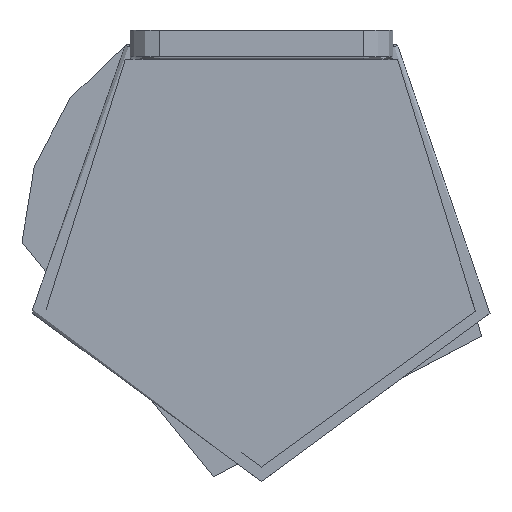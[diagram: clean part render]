
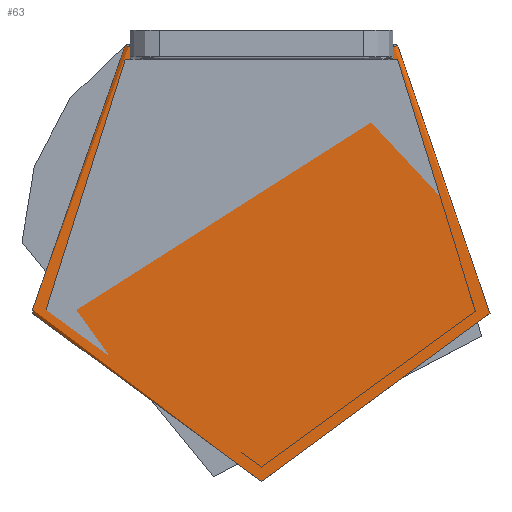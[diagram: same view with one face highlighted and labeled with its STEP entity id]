
A CAD part, top view. The second image highlights one B-rep face of the part: STEP entity #63.
In plain terms, the highlighted free-form (B-spline) face has degree [2, 2] with [9, 3] control points.
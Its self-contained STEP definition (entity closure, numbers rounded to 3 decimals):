
#63=ADVANCED_FACE('',(#117),#900,.T.);
#117=FACE_OUTER_BOUND('',#177,.T.);
#177=EDGE_LOOP('',(#357,#358,#359,#360));
#357=ORIENTED_EDGE('',*,*,#564,.T.);
#358=ORIENTED_EDGE('',*,*,#535,.F.);
#359=ORIENTED_EDGE('',*,*,#552,.T.);
#360=ORIENTED_EDGE('',*,*,#543,.T.);
#535=EDGE_CURVE('',#859,#866,#617,.T.);
#543=EDGE_CURVE('',#858,#865,#716,.T.);
#552=EDGE_CURVE('',#859,#858,#620,.T.);
#564=EDGE_CURVE('',#865,#866,#626,.T.);
#617=(
BOUNDED_CURVE()
B_SPLINE_CURVE(2,(#1891,#1892,#1893,#1894,#1895,#1896,#1897,#1898,#1899),
 .UNSPECIFIED.,.F.,.F.)
B_SPLINE_CURVE_WITH_KNOTS((3,2,2,2,3),(-0.511,102.396,
206.263,310.131,413.038),.UNSPECIFIED.)
CURVE()
GEOMETRIC_REPRESENTATION_ITEM()
RATIONAL_B_SPLINE_CURVE((1.,0.806,1.,0.803,1.,0.803,
1.,0.806,1.))
REPRESENTATION_ITEM('')
);
#620=(
BOUNDED_CURVE()
B_SPLINE_CURVE(3,(#1966,#1967,#1968,#1969,#1970,#1971,#1972),
 .UNSPECIFIED.,.F.,.F.)
B_SPLINE_CURVE_WITH_KNOTS((4,1,1,1,4),(0.674,1.044,
1.358,1.599,1.783),.UNSPECIFIED.)
CURVE()
GEOMETRIC_REPRESENTATION_ITEM()
RATIONAL_B_SPLINE_CURVE((1.,1.,1.,1.,1.,1.,
1.))
REPRESENTATION_ITEM('')
);
#626=(
BOUNDED_CURVE()
B_SPLINE_CURVE(3,(#2070,#2071,#2072,#2073,#2074,#2075,#2076,#2077),
 .UNSPECIFIED.,.F.,.F.)
B_SPLINE_CURVE_WITH_KNOTS((4,1,1,1,1,4),(0.,0.088,
0.185,0.425,0.74,1.109),
 .UNSPECIFIED.)
CURVE()
GEOMETRIC_REPRESENTATION_ITEM()
RATIONAL_B_SPLINE_CURVE((1.,1.,1.,1.,1.,1.,1.,1.))
REPRESENTATION_ITEM('')
);
#716=TRIMMED_CURVE($,#776,(#1917),(#1918),.T.,.CARTESIAN.);
#776=CIRCLE('',#1096,82.258);
#858=VERTEX_POINT('',#1870);
#859=VERTEX_POINT('',#1871);
#865=VERTEX_POINT('',#1877);
#866=VERTEX_POINT('',#1878);
#900=(
BOUNDED_SURFACE()
B_SPLINE_SURFACE(2,2,((#1634,#1635,#1636),(#1637,#1638,#1639),(#1640,#1641,
#1642),(#1643,#1644,#1645),(#1646,#1647,#1648),(#1649,#1650,#1651),(#1652,
#1653,#1654),(#1655,#1656,#1657),(#1658,#1659,#1660)),.UNSPECIFIED.,.F.,
 .F.,.F.)
B_SPLINE_SURFACE_WITH_KNOTS((3,2,2,2,3),(3,3),(-2.471,101.896,
206.263,310.631,414.998),(0.,1.571),
 .UNSPECIFIED.)
GEOMETRIC_REPRESENTATION_ITEM()
RATIONAL_B_SPLINE_SURFACE(((1.,0.707,1.),(0.801,
0.566,0.801),(1.,0.707,1.),(0.801,
0.566,0.801),(1.,0.707,1.),(0.801,
0.566,0.801),(1.,0.707,1.),(0.801,
0.566,0.801),(1.,0.707,1.)))
REPRESENTATION_ITEM('')
SURFACE()
);
#1096=AXIS2_PLACEMENT_3D($,#1916,#1233,#1234);
#1233=DIRECTION('',(0.,0.,1.));
#1234=DIRECTION('',(-0.569,0.822,0.));
#1634=CARTESIAN_POINT('',(1849.419,-207.201,-206.397));
#1635=CARTESIAN_POINT('',(1849.419,-207.201,-205.397));
#1636=CARTESIAN_POINT('',(1849.961,-208.042,-205.397));
#1637=CARTESIAN_POINT('',(1797.712,-240.547,-206.397));
#1638=CARTESIAN_POINT('',(1797.712,-240.547,-205.397));
#1639=CARTESIAN_POINT('',(1798.882,-240.982,-205.397));
#1640=CARTESIAN_POINT('',(1815.092,-299.568,-206.397));
#1641=CARTESIAN_POINT('',(1815.092,-299.568,-205.397));
#1642=CARTESIAN_POINT('',(1816.052,-299.285,-205.397));
#1643=CARTESIAN_POINT('',(1832.473,-358.589,-206.397));
#1644=CARTESIAN_POINT('',(1832.473,-358.589,-205.397));
#1645=CARTESIAN_POINT('',(1833.221,-357.589,-205.397));
#1646=CARTESIAN_POINT('',(1894.,-358.589,-206.397));
#1647=CARTESIAN_POINT('',(1894.,-358.589,-205.397));
#1648=CARTESIAN_POINT('',(1894.,-357.589,-205.397));
#1649=CARTESIAN_POINT('',(1955.527,-358.589,-206.397));
#1650=CARTESIAN_POINT('',(1955.527,-358.589,-205.397));
#1651=CARTESIAN_POINT('',(1954.779,-357.589,-205.397));
#1652=CARTESIAN_POINT('',(1972.908,-299.568,-206.397));
#1653=CARTESIAN_POINT('',(1972.908,-299.568,-205.397));
#1654=CARTESIAN_POINT('',(1971.948,-299.285,-205.397));
#1655=CARTESIAN_POINT('',(1990.288,-240.547,-206.397));
#1656=CARTESIAN_POINT('',(1990.288,-240.547,-205.397));
#1657=CARTESIAN_POINT('',(1989.118,-240.982,-205.397));
#1658=CARTESIAN_POINT('',(1938.581,-207.201,-206.397));
#1659=CARTESIAN_POINT('',(1938.581,-207.201,-205.397));
#1660=CARTESIAN_POINT('',(1938.039,-208.042,-205.397));
#1870=CARTESIAN_POINT('',(1847.209,-208.677,-206.397));
#1871=CARTESIAN_POINT('',(1848.378,-209.089,-205.397));
#1877=CARTESIAN_POINT('',(1940.791,-208.677,-206.397));
#1878=CARTESIAN_POINT('',(1939.622,-209.089,-205.397));
#1891=CARTESIAN_POINT('',(1848.378,-209.089,-205.397));
#1892=CARTESIAN_POINT('',(1798.979,-242.605,-205.397));
#1893=CARTESIAN_POINT('',(1816.194,-299.765,-205.397));
#1894=CARTESIAN_POINT('',(1833.61,-357.589,-205.397));
#1895=CARTESIAN_POINT('',(1894.,-357.589,-205.397));
#1896=CARTESIAN_POINT('',(1954.39,-357.589,-205.397));
#1897=CARTESIAN_POINT('',(1971.806,-299.765,-205.397));
#1898=CARTESIAN_POINT('',(1989.021,-242.605,-205.397));
#1899=CARTESIAN_POINT('',(1939.622,-209.089,-205.397));
#1916=CARTESIAN_POINT('',(1894.,-276.331,-206.397));
#1917=CARTESIAN_POINT('',(1847.209,-208.677,-206.397));
#1918=CARTESIAN_POINT('',(1940.791,-208.677,-206.397));
#1966=CARTESIAN_POINT('',(1848.378,-209.089,-205.397));
#1967=CARTESIAN_POINT('',(1848.216,-209.032,-205.397));
#1968=CARTESIAN_POINT('',(1847.915,-208.926,-205.449));
#1969=CARTESIAN_POINT('',(1847.531,-208.791,-205.67));
#1970=CARTESIAN_POINT('',(1847.276,-208.701,-205.996));
#1971=CARTESIAN_POINT('',(1847.207,-208.677,-206.273));
#1972=CARTESIAN_POINT('',(1847.209,-208.677,-206.397));
#2070=CARTESIAN_POINT('',(1940.791,-208.677,-206.397));
#2071=CARTESIAN_POINT('',(1940.791,-208.678,-206.338));
#2072=CARTESIAN_POINT('',(1940.779,-208.682,-206.216));
#2073=CARTESIAN_POINT('',(1940.694,-208.712,-205.957));
#2074=CARTESIAN_POINT('',(1940.469,-208.79,-205.67));
#2075=CARTESIAN_POINT('',(1940.085,-208.926,-205.449));
#2076=CARTESIAN_POINT('',(1939.784,-209.032,-205.397));
#2077=CARTESIAN_POINT('',(1939.622,-209.089,-205.397));
